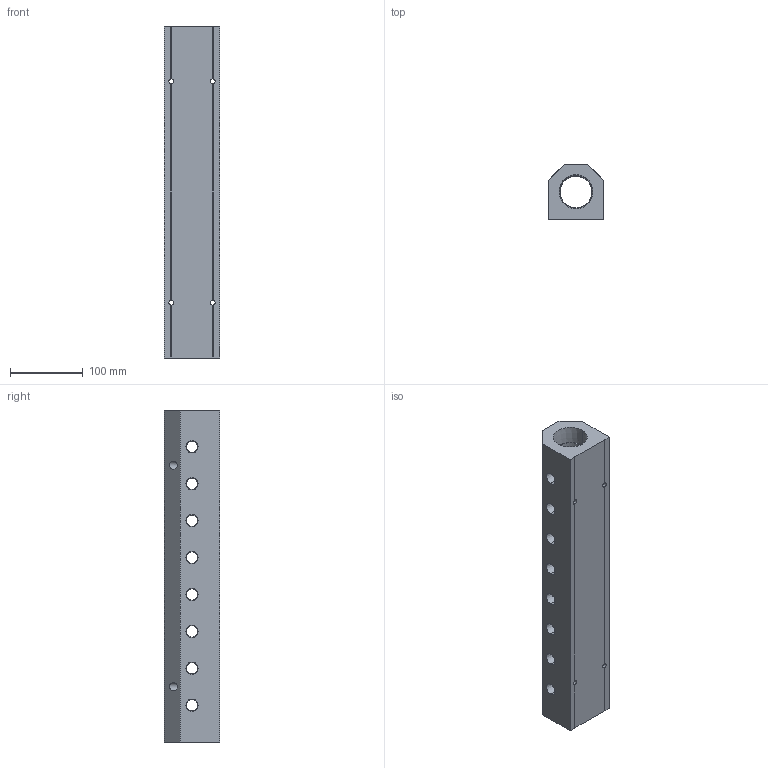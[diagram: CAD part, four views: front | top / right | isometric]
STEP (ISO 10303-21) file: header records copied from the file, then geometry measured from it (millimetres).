
FILE_DESCRIPTION (( 'STEP AP214' ), '1' );
FILE_NAME ('ALM8ACE-N6N24-457B.step', '2022-02-07T09:08:31', ( '' ), ( '' ), 'SwSTEP 2.0', 'SolidWorks 2020', '' );
FILE_SCHEMA (( 'AUTOMOTIVE_DESIGN' ));
Length unit declared in the file: millimetre
Products named in the file (1): ALM8ACE-N6N24-457B
Bounding box: 76.2 x 76.2 x 457 mm (x, y, z)
Volume: 1622483.1 mm3; surface area: 214379.8 mm2
Topology: 1 solids, 1 shells, 357 faces, 968 edges, 632 vertices
Faces by surface type: plane 225, bspline 62, cone 52, cylinder 18
Entity records: 20597 total; most frequent: CARTESIAN_POINT 8580, ORIENTED_EDGE 1936, DIRECTION 1456, EDGE_CURVE 968, VECTOR 696, LINE 696, VERTEX_POINT 632, EDGE_LOOP 434
